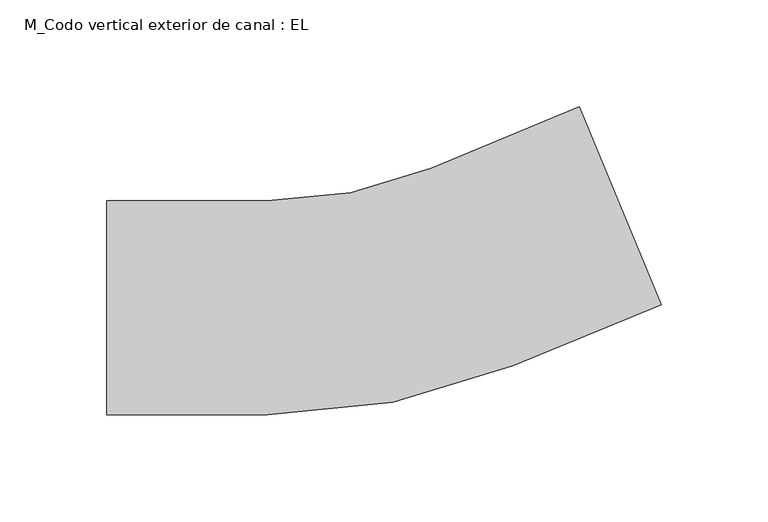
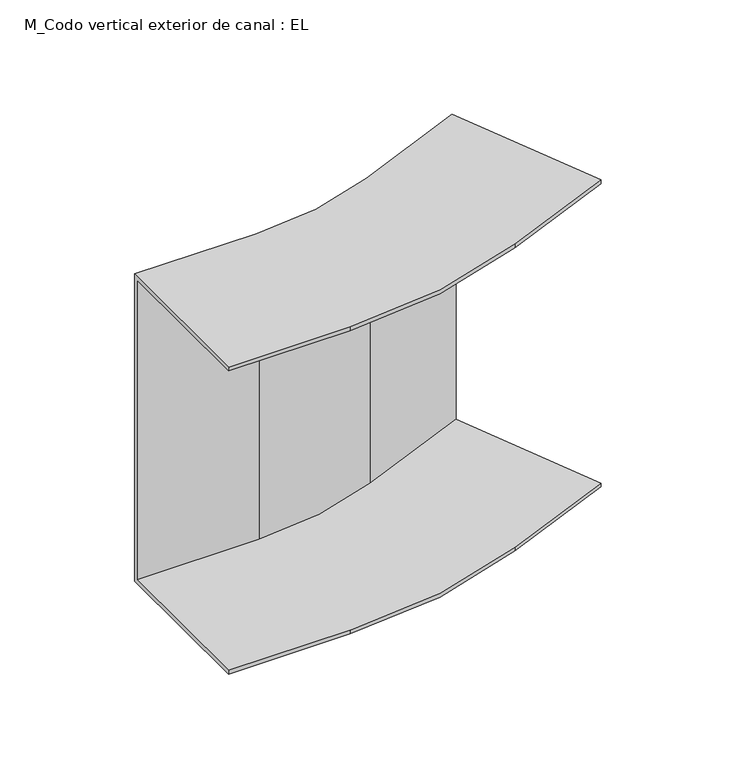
"""IFC4 building model written with IfcOpenShell, lengths in millimetres: cable carrier fitting geometry, M_Codo vertical exterior de canal : EL."""

from ifc_helpers import new_model, si_unit, frame, origin, place, context, project, spatial, polyline, circle_curve, source, transform, mapped, element, save
from ifc_brep_helpers import plane_surface, cylinder_surface, revolved_surface, advanced_brep


def m_codo_vertical_exterior_de_canal_el_8fa2d767(model_context):
    return source(origin(), model_context, "Body", "AdvancedBrep", [
        advanced_brep(
        [(-124.7280918, -50.0, 100.0), (-124.7280918, 50.0, 100.0), (-124.7280918, 50.0, -100.0), (-124.7280918, -50.0, -100.0), (-124.7280918, -50.0, -97.46), (-124.7280918, 47.46, -97.46), (-124.7280918, 47.46, 97.46), (-124.7280918, -50.0, 97.46), (134.3679028, 1.5373977, 100.0), (134.3679028, 1.5373977, 97.46), (97.0715755, 91.5786969, 97.46), (97.0715755, 91.5786969, -97.46), (134.3679028, 1.5373977, -97.46), (134.3679028, 1.5373977, -100.0), (96.0995596, 93.9253509, -100.0), (96.0995596, 93.9253509, 100.0), (-49.7280918, -50.0, 100.0), (65.0769379, -27.1638598, 100.0), (26.8085946, 65.2240935, 100.0), (-49.7280918, 50.0, 100.0), (-49.7280918, 50.0, -100.0), (26.8085946, 65.2240935, -100.0), (65.0769379, -27.1638598, -100.0), (-49.7280918, -50.0, -100.0), (-49.7280918, -50.0, -97.46), (65.0769379, -27.1638598, -97.46), (27.7806105, 62.8774395, -97.46), (-49.7280918, 47.46, -97.46), (-49.7280918, 47.46, 97.46), (27.7806105, 62.8774395, 97.46), (65.0769379, -27.1638598, 97.46), (-49.7280918, -50.0, 97.46)],
        [
            (0, 1),
            (1, 2),
            (2, 3),
            (3, 4),
            (4, 5),
            (5, 6),
            (6, 7),
            (7, 0),
            (8, 9),
            (9, 10),
            (10, 11),
            (11, 12),
            (12, 13),
            (13, 14),
            (14, 15),
            (15, 8),
            (0, 16),
            (16, 17, circle_curve(frame((-49.7280918, 250.0, 100.0), z_axis=(0.0, 0.0, 1.0), x_axis=(0.0, -1.0, 0.0)), 300.0)),
            (17, 8),
            (15, 18),
            (18, 19, circle_curve(frame((-49.7280918, 250.0, 100.0), z_axis=(0.0, 0.0, -1.0), x_axis=(0.0, -1.0, 0.0)), 200.0)),
            (19, 1),
            (19, 20),
            (20, 2),
            (20, 21, circle_curve(frame((-49.7280918, 250.0, -100.0), z_axis=(0.0, 0.0, 1.0), x_axis=(0.0, -1.0, 0.0)), 200.0)),
            (21, 14),
            (13, 22),
            (22, 23, circle_curve(frame((-49.7280918, 250.0, -100.0), z_axis=(0.0, 0.0, -1.0), x_axis=(0.0, -1.0, 0.0)), 300.0)),
            (23, 3),
            (23, 24),
            (24, 4),
            (24, 25, circle_curve(frame((-49.7280918, 250.0, -97.46), z_axis=(0.0, 0.0, 1.0), x_axis=(0.0, -1.0, 0.0)), 300.0)),
            (25, 12),
            (11, 26),
            (26, 27, circle_curve(frame((-49.7280918, 250.0, -97.46), z_axis=(0.0, 0.0, -1.0), x_axis=(0.0, -1.0, 0.0)), 202.54)),
            (27, 5),
            (27, 28),
            (28, 6),
            (28, 29, circle_curve(frame((-49.7280918, 250.0, 97.46), z_axis=(0.0, 0.0, 1.0), x_axis=(0.0, -1.0, 0.0)), 202.54)),
            (29, 10),
            (9, 30),
            (30, 31, circle_curve(frame((-49.7280918, 250.0, 97.46), z_axis=(0.0, 0.0, -1.0), x_axis=(0.0, -1.0, 0.0)), 300.0)),
            (31, 7),
            (31, 16),
            (18, 21),
            (22, 25),
            (26, 29),
            (30, 17),
        ],
        [
            plane_surface(frame((-124.7280918, 0.0, 0.0), z_axis=(-1.0, 0.0, 0.0), x_axis=(0.0, 0.0, 1.0))),
            plane_surface(frame((115.2337312, 47.7313743, 0.0), z_axis=(0.9238795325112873, 0.3826834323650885, 0.0), x_axis=(0.0, 0.0, 1.0))),
            plane_surface(frame((-124.7280918, -50.0, 100.0), z_axis=(0.0, 0.0, 1.0), x_axis=(1.0, 0.0, 0.0))),
            plane_surface(frame((-124.7280918, 50.0, 100.0), z_axis=(0.0, 1.0, 0.0), x_axis=(1.0, 0.0, 0.0))),
            plane_surface(frame((-124.7280918, 50.0, -100.0), z_axis=(0.0, 0.0, -1.0), x_axis=(1.0, 0.0, 0.0))),
            plane_surface(frame((-124.7280918, -50.0, -100.0), z_axis=(0.0, -1.0, 0.0), x_axis=(1.0, 0.0, 0.0))),
            plane_surface(frame((-124.7280918, -50.0, -97.46), z_axis=(0.0, 0.0, 1.0), x_axis=(1.0, 0.0, 0.0))),
            plane_surface(frame((-124.7280918, 47.46, -97.46), z_axis=(0.0, -1.0, 0.0), x_axis=(1.0, 0.0, 0.0))),
            plane_surface(frame((-124.7280918, 47.46, 97.46), z_axis=(0.0, 0.0, -1.0), x_axis=(1.0, 0.0, 0.0))),
            plane_surface(frame((-124.7280918, -50.0, 97.46), z_axis=(0.0, -1.0, 0.0), x_axis=(1.0, 0.0, 0.0))),
            revolved_surface(polyline([(-49.7280918, 50.0, 100.0), (-49.7280918, 50.0, -100.0)]), (-49.7280918, 250.0, 0.0), (0.0, 0.0, 1.0)),
            cylinder_surface(frame((-49.7280918, 250.0, 0.0), z_axis=(0.0, 0.0, 1.0), x_axis=(0.0, -1.0, 0.0)), 300.0),
            cylinder_surface(frame((-49.7280918, 250.0, 0.0), z_axis=(0.0, 0.0, 1.0), x_axis=(0.0, -1.0, 0.0)), 202.54),
            plane_surface(frame((26.8085946, 65.2240935, 100.0), z_axis=(-0.38268343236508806, 0.9238795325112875, 0.0), x_axis=(0.9238795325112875, 0.38268343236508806, 0.0))),
            plane_surface(frame((65.0769379, -27.1638598, -100.0), z_axis=(0.38268343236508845, -0.9238795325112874, 0.0), x_axis=(0.9238795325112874, 0.38268343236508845, 0.0))),
            plane_surface(frame((27.7806105, 62.8774395, -97.46), z_axis=(0.38268343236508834, -0.9238795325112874, 0.0), x_axis=(0.9238795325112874, 0.38268343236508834, 0.0))),
            plane_surface(frame((65.0769379, -27.1638598, 97.46), z_axis=(0.38268343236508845, -0.9238795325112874, 0.0), x_axis=(0.9238795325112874, 0.38268343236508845, 0.0))),
        ],
        [
            (0, [[1, 2, 3, 4, 5, 6, 7, 8]]),
            (1, [[9, 10, 11, 12, 13, 14, 15, 16]]),
            (2, [[-1, 17, 18, 19, -16, 20, 21, 22]]),
            (3, [[-2, -22, 23, 24]]),
            (4, [[-3, -24, 25, 26, -14, 27, 28, 29]]),
            (5, [[-4, -29, 30, 31]]),
            (6, [[-5, -31, 32, 33, -12, 34, 35, 36]]),
            (7, [[-6, -36, 37, 38]]),
            (8, [[-7, -38, 39, 40, -10, 41, 42, 43]]),
            (9, [[-8, -43, 44, -17]]),
            (10, [[-25, -23, -21, 45]]),
            (11, [[-32, -30, -28, 46]]),
            (12, [[-39, -37, -35, 47]]),
            (11, [[-18, -44, -42, 48]]),
            (13, [[-45, -20, -15, -26]]),
            (14, [[-46, -27, -13, -33]]),
            (15, [[-47, -34, -11, -40]]),
            (16, [[-48, -41, -9, -19]]),
        ],
    ),
    ])


if __name__ == "__main__":
    model = new_model("IFC4")
    model_context = context("Model", 3, world=origin())
    ifc_project = project(units=[si_unit("LENGTHUNIT", "METRE", prefix="MILLI")], contexts=[model_context])
    site = spatial("IfcSite", under=ifc_project)
    building = spatial("IfcBuilding", under=site)
    placement = place(None, origin())
    m_codo_vertical_exterior_de_canal_el_shape = m_codo_vertical_exterior_de_canal_el_8fa2d767(model_context)
    element("IfcCableCarrierFitting", 1, ObjectType="M_Codo vertical exterior de canal : EL", at=placement, inside=building, context=model_context, shape_type="MappedRepresentation", body=[
        mapped(m_codo_vertical_exterior_de_canal_el_shape, transform((0.0, 0.0, 0.0), x_axis=(1.0, 0.0, 0.0), y_axis=(0.0, 1.0, 0.0), z_axis=(0.0, 0.0, 1.0))),
    ])
    save(model, "model.ifc")
